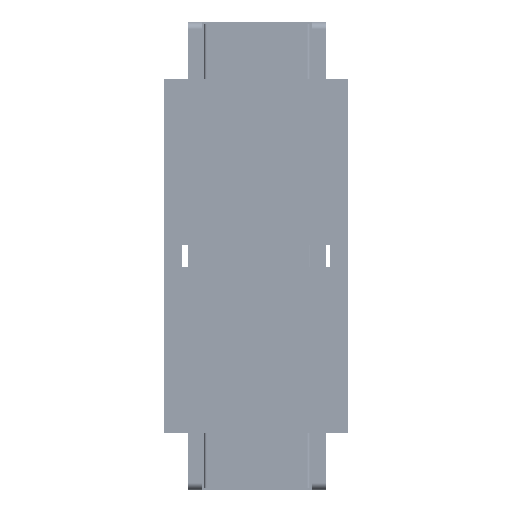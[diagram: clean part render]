
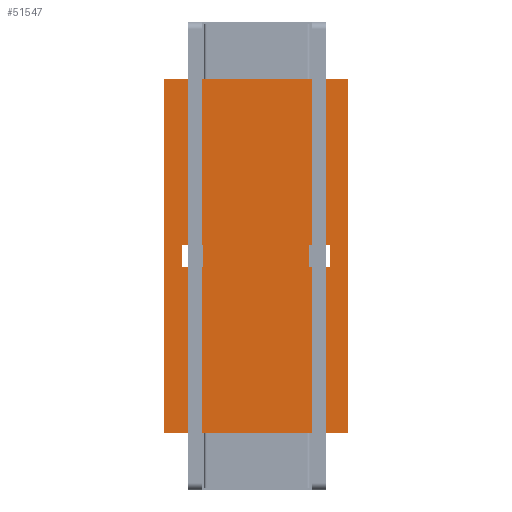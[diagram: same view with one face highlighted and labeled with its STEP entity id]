
A CAD part, front view. The second image highlights one B-rep face of the part: STEP entity #51547.
In plain terms, the highlighted planar face has unit normal (0, -1, 0).
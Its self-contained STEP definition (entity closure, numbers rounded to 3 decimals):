
#370 = CARTESIAN_POINT ( 'NONE',  ( 45.2, -138., -26. ) ) ;
#397 = DIRECTION ( 'NONE',  ( 0., 0., -1. ) ) ;
#1618 = DIRECTION ( 'NONE',  ( 0., 0., 1. ) ) ;
#2516 = CARTESIAN_POINT ( 'NONE',  ( 40.2, -138., 50. ) ) ;
#3824 = ORIENTED_EDGE ( 'NONE', *, *, #49543, .F. ) ;
#4015 = PLANE ( 'NONE',  #36129 ) ;
#4679 = ORIENTED_EDGE ( 'NONE', *, *, #17615, .T. ) ;
#5857 = DIRECTION ( 'NONE',  ( -1., 0., 0. ) ) ;
#6740 = EDGE_LOOP ( 'NONE', ( #4679, #39300, #28080, #9187 ) ) ;
#8383 = DIRECTION ( 'NONE',  ( 0., 0., 1. ) ) ;
#8573 = FACE_BOUND ( 'NONE', #35890, .T. ) ;
#8683 = CARTESIAN_POINT ( 'NONE',  ( 4.2, -138., 3. ) ) ;
#9096 = LINE ( 'NONE', #2516, #43602 ) ;
#9153 = LINE ( 'NONE', #21472, #53344 ) ;
#9187 = ORIENTED_EDGE ( 'NONE', *, *, #12054, .T. ) ;
#9403 = DIRECTION ( 'NONE',  ( 1., 0., 0. ) ) ;
#9576 = CARTESIAN_POINT ( 'NONE',  ( 45.2, -138., 50. ) ) ;
#9750 = VERTEX_POINT ( 'NONE', #50600 ) ;
#10311 = EDGE_CURVE ( 'NONE', #9750, #30323, #35229, .T. ) ;
#10407 = CARTESIAN_POINT ( 'NONE',  ( -1.8, -138., -3. ) ) ;
#12054 = EDGE_CURVE ( 'NONE', #39752, #36240, #31295, .T. ) ;
#12378 = CARTESIAN_POINT ( 'NONE',  ( 41.2, -138., 0. ) ) ;
#12606 = DIRECTION ( 'NONE',  ( 1., 0., 0. ) ) ;
#13375 = VERTEX_POINT ( 'NONE', #9576 ) ;
#13601 = CARTESIAN_POINT ( 'NONE',  ( 34.2, -138., 3. ) ) ;
#13645 = CARTESIAN_POINT ( 'NONE',  ( 40.2, -138., 3. ) ) ;
#13836 = CARTESIAN_POINT ( 'NONE',  ( -6.8, -138., -50. ) ) ;
#14451 = EDGE_CURVE ( 'NONE', #23473, #16119, #22439, .T. ) ;
#14532 = CARTESIAN_POINT ( 'NONE',  ( 34.2, -138., 3. ) ) ;
#14668 = VECTOR ( 'NONE', #25919, 1000. ) ;
#15435 = EDGE_CURVE ( 'NONE', #42854, #16034, #28609, .T. ) ;
#15873 = EDGE_CURVE ( 'NONE', #13375, #42854, #28011, .T. ) ;
#16034 = VERTEX_POINT ( 'NONE', #13836 ) ;
#16119 = VERTEX_POINT ( 'NONE', #13645 ) ;
#17005 = CARTESIAN_POINT ( 'NONE',  ( 34.2, -138., -3. ) ) ;
#17615 = EDGE_CURVE ( 'NONE', #36240, #23473, #19528, .T. ) ;
#18791 = CARTESIAN_POINT ( 'NONE',  ( 40.2, -138., -3. ) ) ;
#19017 = VECTOR ( 'NONE', #40306, 1000. ) ;
#19478 = ORIENTED_EDGE ( 'NONE', *, *, #50399, .T. ) ;
#19528 = LINE ( 'NONE', #13601, #29249 ) ;
#19949 = EDGE_CURVE ( 'NONE', #25105, #13375, #9096, .T. ) ;
#21472 = CARTESIAN_POINT ( 'NONE',  ( 4.2, -138., -3. ) ) ;
#21513 = EDGE_CURVE ( 'NONE', #30323, #42255, #9153, .T. ) ;
#22013 = ORIENTED_EDGE ( 'NONE', *, *, #15873, .F. ) ;
#22439 = LINE ( 'NONE', #41867, #40618 ) ;
#23254 = CARTESIAN_POINT ( 'NONE',  ( -6.8, -138., 50. ) ) ;
#23473 = VERTEX_POINT ( 'NONE', #14532 ) ;
#23953 = ORIENTED_EDGE ( 'NONE', *, *, #31081, .T. ) ;
#24280 = ORIENTED_EDGE ( 'NONE', *, *, #19949, .F. ) ;
#25105 = VERTEX_POINT ( 'NONE', #23254 ) ;
#25734 = CARTESIAN_POINT ( 'NONE',  ( 40.2, -138., -3. ) ) ;
#25919 = DIRECTION ( 'NONE',  ( 0., 0., -1. ) ) ;
#26120 = LINE ( 'NONE', #26827, #19017 ) ;
#26715 = CARTESIAN_POINT ( 'NONE',  ( 4.2, -138., -3. ) ) ;
#26754 = FACE_BOUND ( 'NONE', #6740, .T. ) ;
#26827 = CARTESIAN_POINT ( 'NONE',  ( -1.8, -138., 3. ) ) ;
#28011 = LINE ( 'NONE', #370, #31956 ) ;
#28080 = ORIENTED_EDGE ( 'NONE', *, *, #38587, .T. ) ;
#28609 = LINE ( 'NONE', #51369, #39124 ) ;
#29249 = VECTOR ( 'NONE', #1618, 1000. ) ;
#29597 = LINE ( 'NONE', #25734, #14668 ) ;
#30323 = VERTEX_POINT ( 'NONE', #8683 ) ;
#30726 = CARTESIAN_POINT ( 'NONE',  ( -1.8, -138., -3. ) ) ;
#31081 = EDGE_CURVE ( 'NONE', #42255, #32532, #31755, .T. ) ;
#31153 = DIRECTION ( 'NONE',  ( -1., 0., 0. ) ) ;
#31295 = LINE ( 'NONE', #40310, #53421 ) ;
#31755 = LINE ( 'NONE', #10407, #53193 ) ;
#31956 = VECTOR ( 'NONE', #45670, 1000. ) ;
#32532 = VERTEX_POINT ( 'NONE', #30726 ) ;
#32658 = LINE ( 'NONE', #45946, #45707 ) ;
#34300 = ORIENTED_EDGE ( 'NONE', *, *, #21513, .T. ) ;
#35229 = LINE ( 'NONE', #49802, #50198 ) ;
#35890 = EDGE_LOOP ( 'NONE', ( #19478, #50190, #34300, #23953 ) ) ;
#36129 = AXIS2_PLACEMENT_3D ( 'NONE', #12378, #45657, #8383 ) ;
#36240 = VERTEX_POINT ( 'NONE', #17005 ) ;
#38555 = CARTESIAN_POINT ( 'NONE',  ( 45.2, -138., -50. ) ) ;
#38587 = EDGE_CURVE ( 'NONE', #16119, #39752, #29597, .T. ) ;
#39124 = VECTOR ( 'NONE', #31153, 1000. ) ;
#39300 = ORIENTED_EDGE ( 'NONE', *, *, #14451, .T. ) ;
#39752 = VERTEX_POINT ( 'NONE', #18791 ) ;
#40306 = DIRECTION ( 'NONE',  ( 0., 0., 1. ) ) ;
#40310 = CARTESIAN_POINT ( 'NONE',  ( 34.2, -138., -3. ) ) ;
#40618 = VECTOR ( 'NONE', #12606, 1000. ) ;
#41867 = CARTESIAN_POINT ( 'NONE',  ( 40.2, -138., 3. ) ) ;
#42111 = DIRECTION ( 'NONE',  ( 0., 0., 1. ) ) ;
#42255 = VERTEX_POINT ( 'NONE', #26715 ) ;
#42854 = VERTEX_POINT ( 'NONE', #38555 ) ;
#43602 = VECTOR ( 'NONE', #48350, 1000. ) ;
#44418 = ORIENTED_EDGE ( 'NONE', *, *, #15435, .F. ) ;
#44479 = DIRECTION ( 'NONE',  ( -1., 0., 0. ) ) ;
#45657 = DIRECTION ( 'NONE',  ( 0., 1., 0. ) ) ;
#45670 = DIRECTION ( 'NONE',  ( 0., 0., -1. ) ) ;
#45707 = VECTOR ( 'NONE', #42111, 1000. ) ;
#45946 = CARTESIAN_POINT ( 'NONE',  ( -6.8, -138., 17. ) ) ;
#46988 = FACE_OUTER_BOUND ( 'NONE', #50443, .T. ) ;
#48350 = DIRECTION ( 'NONE',  ( 1., 0., 0. ) ) ;
#49543 = EDGE_CURVE ( 'NONE', #16034, #25105, #32658, .T. ) ;
#49802 = CARTESIAN_POINT ( 'NONE',  ( 4.2, -138., 3. ) ) ;
#50190 = ORIENTED_EDGE ( 'NONE', *, *, #10311, .T. ) ;
#50198 = VECTOR ( 'NONE', #9403, 1000. ) ;
#50399 = EDGE_CURVE ( 'NONE', #32532, #9750, #26120, .T. ) ;
#50443 = EDGE_LOOP ( 'NONE', ( #24280, #3824, #44418, #22013 ) ) ;
#50600 = CARTESIAN_POINT ( 'NONE',  ( -1.8, -138., 3. ) ) ;
#51369 = CARTESIAN_POINT ( 'NONE',  ( -3.8, -138., -50. ) ) ;
#51547 = ADVANCED_FACE ( 'NONE', ( #46988, #8573, #26754 ), #4015, .F. ) ;
#53193 = VECTOR ( 'NONE', #5857, 1000. ) ;
#53344 = VECTOR ( 'NONE', #397, 1000. ) ;
#53421 = VECTOR ( 'NONE', #44479, 1000. ) ;
